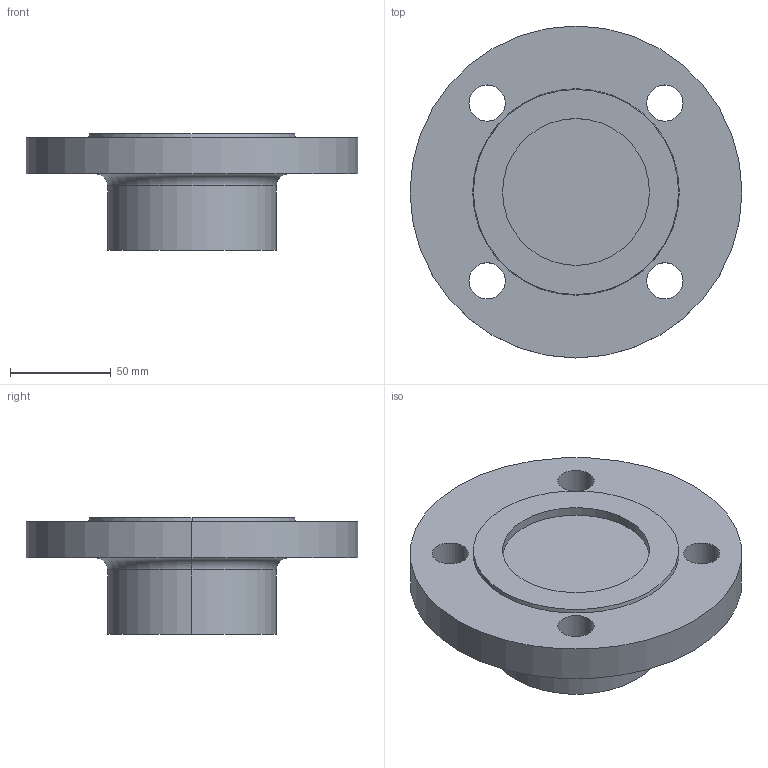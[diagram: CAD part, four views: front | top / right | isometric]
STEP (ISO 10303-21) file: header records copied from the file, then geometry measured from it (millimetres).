
FILE_DESCRIPTION (( 'STEP AP214' ), '1' );
FILE_NAME ('PN40 DN50 Type 21(i) - Type G Face.STEP', '2018-12-30T04:25:35', ( '' ), ( '' ), 'SwSTEP 2.0', 'SolidWorks 2019', '' );
FILE_SCHEMA (( 'AUTOMOTIVE_DESIGN' ));
Length unit declared in the file: millimetre
Products named in the file (1): PN40 DN50 Type 21(i) - Type G Face
Bounding box: 165 x 165 x 58 mm (x, y, z)
Volume: 576875.2 mm3; surface area: 65067.2 mm2
Topology: 1 solids, 1 shells, 23 faces, 52 edges, 34 vertices
Faces by surface type: cylinder 14, plane 5, torus 2, cone 2
Entity records: 716 total; most frequent: DIRECTION 136, CARTESIAN_POINT 110, ORIENTED_EDGE 104, AXIS2_PLACEMENT_3D 60, EDGE_CURVE 52, CIRCLE 36, VERTEX_POINT 34, EDGE_LOOP 34
